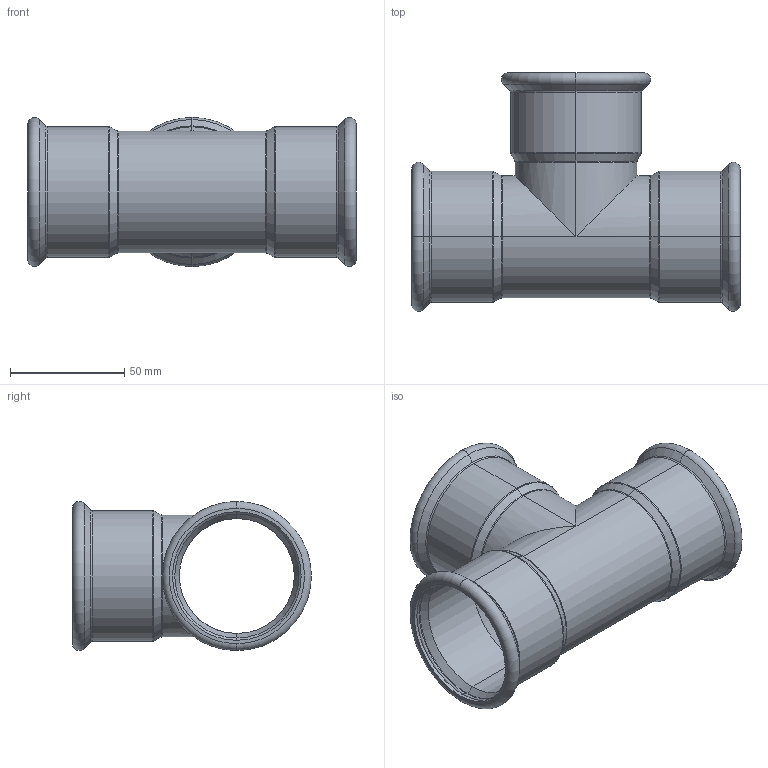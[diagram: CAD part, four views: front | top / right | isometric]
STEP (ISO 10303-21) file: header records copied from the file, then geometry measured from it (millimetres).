
FILE_DESCRIPTION (( 'STEP AP214' ), '1' );
FILE_NAME ('T540000.STEP', '2025-08-17T12:51:52', ( '' ), ( '' ), 'SwSTEP 2.0', 'SolidWorks 2020', '' );
FILE_SCHEMA (( 'AUTOMOTIVE_DESIGN' ));
Length unit declared in the file: millimetre
Products named in the file (1): T540000
Bounding box: 144 x 104.7 x 65.39 mm (x, y, z)
Volume: 52568.4 mm3; surface area: 72087.1 mm2
Topology: 4 solids, 4 shells, 100 faces, 202 edges, 106 vertices
Faces by surface type: torus 42, cylinder 28, cone 24, plane 6
Entity records: 3763 total; most frequent: DIRECTION 544, CARTESIAN_POINT 421, ORIENTED_EDGE 404, AXIS2_PLACEMENT_3D 245, EDGE_CURVE 202, CIRCLE 144, EDGE_LOOP 106, UNCERTAINTY_MEASURE_WITH_UNIT 106
